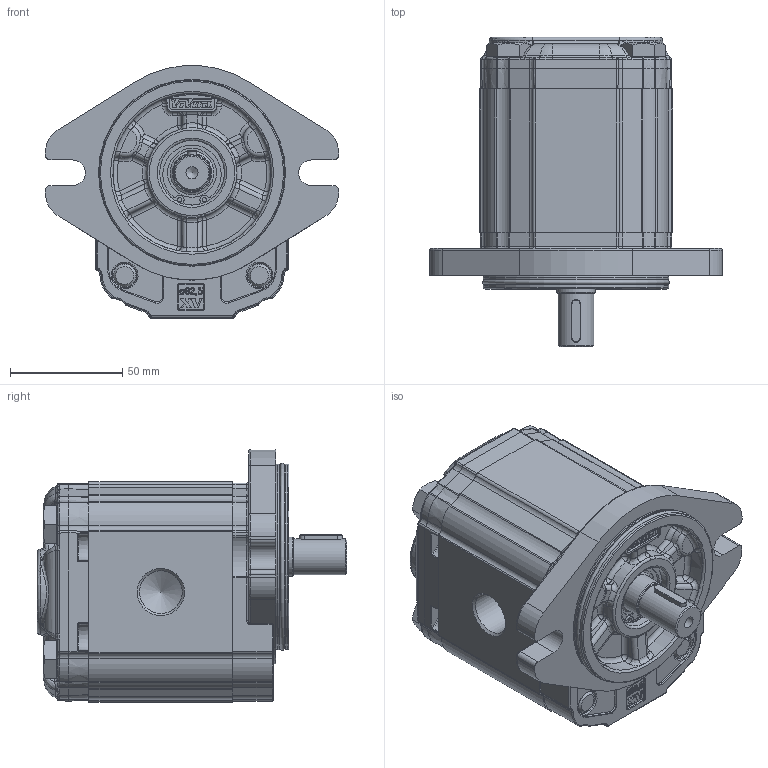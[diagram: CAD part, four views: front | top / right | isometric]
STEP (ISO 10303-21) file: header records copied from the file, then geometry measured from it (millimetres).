
FILE_DESCRIPTION(/* description */ ('Unknown'),/* implementation_level */ '2;1');
FILE_NAME(/* name */ 'X2P4951BCBA',/* time_stamp */ '2021-07-16T13:45:28+02:00',/* author */ ('Unknown'),/* organization */ ('Unknown'),/* preprocessor_version */ 'ST-DEVELOPER v16.7',/* originating_system */ 'Solid Edge',/* authorisation */ 'Unknown');
FILE_SCHEMA (('AUTOMOTIVE_DESIGN {1 0 10303 214 3 1 1}'));
Products named in the file (5): X2P4951BCBA; X2P51; 2B; X2CBH64; XP219-A
Assembly tree (4 placements, depth 2):
  X2P4951BCBA
    X2P51
    2B
    X2CBH64
    XP219-A
Bounding box: 130.38 x 137.7 x 112.3 mm (x, y, z)
Volume: 803199.2 mm3; surface area: 108532.1 mm2
Topology: 4 solids, 6 shells, 2083 faces, 5105 edges, 3093 vertices
Faces by surface type: cylinder 619, plane 573, bspline 537, torus 243, cone 73, sphere 38
Full cylindrical faces by diameter (mm): 2 x2, 5.367 x1, 10 x4, 10.5 x4, 11 x2, 15.875 x1, 16 x4, 17.42 x1, 17.48 x2, 18.724 x1, 19 x1, 20.595 x1, 21.741 x1, 24.117 x1, 25.834 x1, 28.56 x1, 28.57 x1, 28.8 x1, 30.4 x1, 79.6 x2, 82.5 x2
Entity records: 88509 total; most frequent: CARTESIAN_POINT 29273, ORIENTED_EDGE 9858, DIRECTION 8227, EDGE_CURVE 4929, AXIS2_PLACEMENT_3D 3098, VERTEX_POINT 3042, FACE_BOUND 2271, EDGE_LOOP 2267
